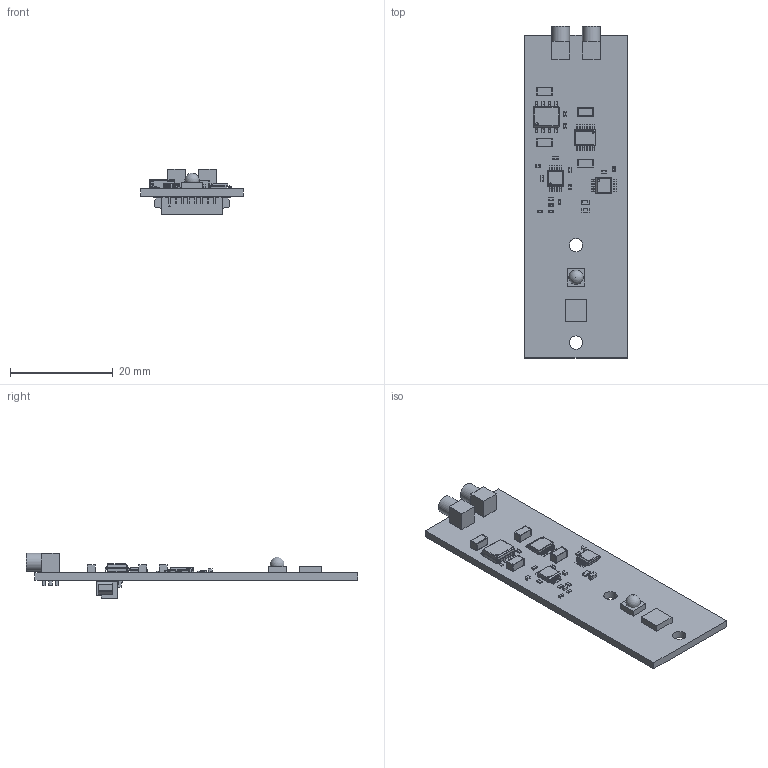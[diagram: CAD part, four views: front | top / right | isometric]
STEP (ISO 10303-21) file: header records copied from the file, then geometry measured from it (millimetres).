
FILE_DESCRIPTION(('Open CASCADE Model'),'2;1');
FILE_NAME('Open CASCADE Shape Model','2025-09-30T17:59:26',('Author'),( 'Open CASCADE'),'Open CASCADE STEP processor 7.5','Open CASCADE 7.5' ,'Unknown');
FILE_SCHEMA(('AUTOMOTIVE_DESIGN { 1 0 10303 214 1 1 1 1 }'));
Length unit declared in the file: millimetre
Products named in the file (76): PCB; Board; Open CASCADE STEP translator 7.5 1.1.1; J3; Conn_Molex_532610871_eec; 1; 2; 3; Molex; Notch; R11; RES0402; C11; 1x0.5x0.5x0.25; base; pin; U4; 6417014352; Open CASCADE STEP translator 6.8 5.1; Body; Open CASCADE STEP translator 6.8 5.2.1; Leader; U3; 6417014192; Open CASCADE STEP translator 7.5 9.1; Open CASCADE STEP translator 7.5 9.2.1; R10; User Library-res0603-1; R9; R8; R7; R6; R5; R4; R3; J2; 66011002111501; J1; C8; 1.6x0.8x0.8x0.4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
Assembly tree (126 placements, depth 5):
  PCB
    Board
      Open CASCADE STEP translator 7.5 1.1.1
    J3
      Conn_Molex_532610871_eec
        1
        2
        3
        Molex
        Notch
    R11
      RES0402
    C11
      1x0.5x0.5x0.25
        base
        pin  x2
    U4
      6417014352
        Open CASCADE STEP translator 6.8 5.1
        Body
          Open CASCADE STEP translator 6.8 5.2.1
        Leader  x8
    U3
      6417014192
        Open CASCADE STEP translator 7.5 9.1
        Body
          Open CASCADE STEP translator 7.5 9.2.1
        Leader  x8
    R10
      User Library-res0603-1
    R9
      RES0402
    R8
      RES0402
    R7
      RES0402
    R6
      RES0402
    R5
      RES0402
    R4
      RES0402
    R3
      RES0402
    J2
      66011002111501
    J1
      66011002111501
    C8
      1.6x0.8x0.8x0.4
        base
        pin  x2
    C7
      1x0.5x0.5x0.25
        base
        pin  x2
    C6
      1x0.5x0.5x0.25
        base
        pin  x2
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Bounding box: 20 x 64.75 x 8.86 mm (x, y, z)
Volume: 2193.2 mm3; surface area: 4014.3 mm2
Topology: 109 solids, 113 shells, 2485 faces, 5577 edges, 3221 vertices
Faces by surface type: plane 1687, cylinder 549, sphere 133, bspline 98, cone 14, torus 4
Full cylindrical faces by diameter (mm): 0.388 x2, 0.4 x1, 0.5 x1, 0.7 x2, 0.8 x10, 2.25 x4, 2.42 x2, 2.6 x2, 2.9 x2, 3.02 x2, 3.5 x2
Entity records: 36078 total; most frequent: CARTESIAN_POINT 9251, ORIENTED_EDGE 4856, DIRECTION 4842, EDGE_CURVE 2430, LINE 1722, VECTOR 1722, AXIS2_PLACEMENT_3D 1560, VERTEX_POINT 1469
